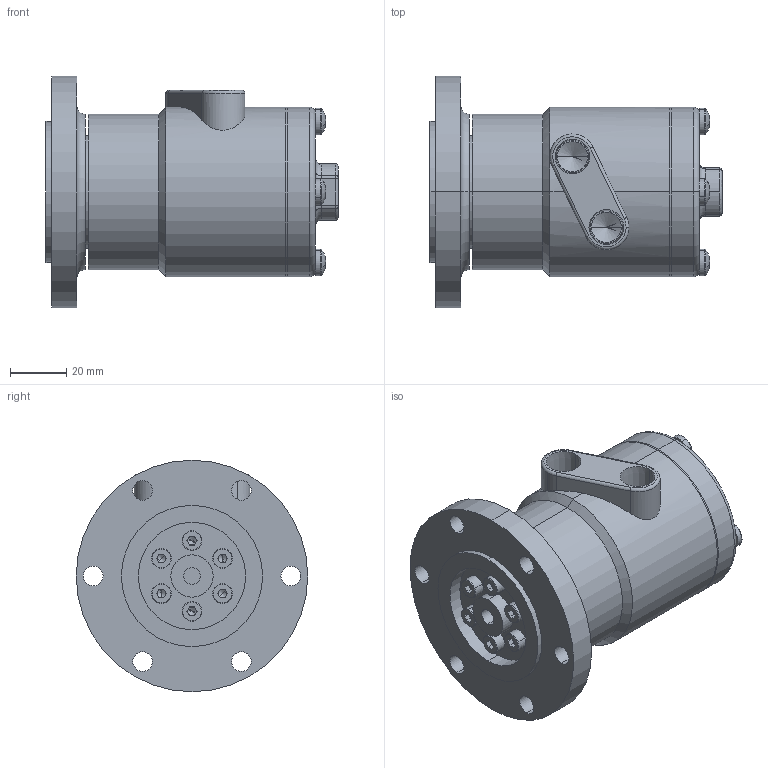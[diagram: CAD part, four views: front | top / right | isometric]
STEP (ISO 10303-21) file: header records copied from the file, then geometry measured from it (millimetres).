
FILE_DESCRIPTION (( 'STEP AP203' ), '1' );
FILE_NAME ('RJC-062L.STEP', '2016-02-03T07:42:50', ( 'Toshiba' ), ( 'Toshiba' ), 'SwSTEP 2.0', 'SolidWorks 2014', '' );
FILE_SCHEMA (( 'CONFIG_CONTROL_DESIGN' ));
Length unit declared in the file: millimetre
Products named in the file (7): RJC-2; RJC-062L; RJC-1; ISO 7045 - M5 x 16; RJC-3; ISO 4762 M4 x 16; RJC-4
Assembly tree (14 placements, depth 2):
  RJC-062L
    RJC-1
    RJC-2
    ISO 4762 M4 x 16  x6
    RJC-3
    RJC-4
    ISO 7045 - M5 x 16  x4
Bounding box: 103.5 x 82 x 82 mm (x, y, z)
Volume: 272657 mm3; surface area: 56444.2 mm2
Topology: 14 solids, 14 shells, 457 faces, 1061 edges, 630 vertices
Faces by surface type: plane 185, cylinder 129, cone 74, torus 61, sphere 8
Entity records: 7404 total; most frequent: DIRECTION 1259, CARTESIAN_POINT 1169, ORIENTED_EDGE 998, AXIS2_PLACEMENT_3D 538, EDGE_CURVE 499, VERTEX_POINT 312, CIRCLE 301, EDGE_LOOP 277
